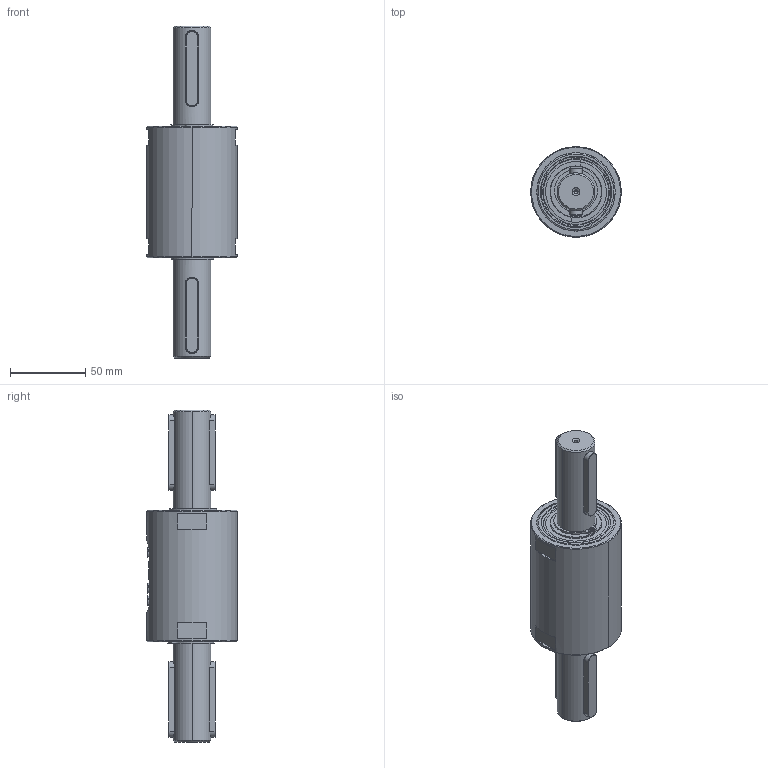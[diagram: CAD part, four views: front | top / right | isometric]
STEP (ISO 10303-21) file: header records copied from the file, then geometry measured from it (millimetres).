
FILE_DESCRIPTION (( 'STEP AP203' ), '1' );
FILE_NAME ('400006-ATS013_500Nm-25mm-Rund.STEP', '2017-02-20T10:23:01', ( '' ), ( '' ), 'SwSTEP 2.0', 'SolidWorks 2016', '' );
FILE_SCHEMA (( 'CONFIG_CONTROL_DESIGN' ));
Length unit declared in the file: millimetre
Products named in the file (14): 999999-ATM007-Tellerfeder_k_vorgespannt51,5x35,5_Standard; 400006-ATM002-Mutter-Binder-Stecker; ISO 1207 - M4 x 5 --- 5S_ISO 1207 - M4 x 5 --- 5S; 400006-ATS021-PCB12_mit_Stecker_Welle 25mm; 400006-ATE009-Binder-712-0416-90-05; DIN 988-42x52x1_DIN 988-42x52x1; 400006-ATM035_Rohrgehäuse_60mm; 400006-ATM032_Welle-25mm-Rund; Circlip DIN 471 - 25 x 1.2_Circlip DIN 471 - 25 x 1.2; ISO 1207 - M4 x 4 --- 4S_ISO 1207 - M4 x 4 --- 4S; 400006-ATS013_500Nm-25mm-Rund; 999999-ATN173_Rillenkugellager_6205-2Z_Standard; 400006-ATM031_Passscheibe_35x52x1; Parallel key A8 x 7 x 50 DIN 6885_Parallel key A8 x 7 x 50 DIN 6885
Assembly tree (19 placements, depth 3):
  400006-ATS013_500Nm-25mm-Rund
    400006-ATM032_Welle-25mm-Rund
    400006-ATS021-PCB12_mit_Stecker_Welle 25mm
      400006-ATE009-Binder-712-0416-90-05
    400006-ATM035_Rohrgehäuse_60mm
    400006-ATM031_Passscheibe_35x52x1
    DIN 988-42x52x1_DIN 988-42x52x1
    999999-ATM007-Tellerfeder_k_vorgespannt51,5x35,5_Standard
    ISO 1207 - M4 x 5 --- 5S_ISO 1207 - M4 x 5 --- 5S  x2
    ISO 1207 - M4 x 4 --- 4S_ISO 1207 - M4 x 4 --- 4S
    Circlip DIN 471 - 25 x 1.2_Circlip DIN 471 - 25 x 1.2  x2
    999999-ATN173_Rillenkugellager_6205-2Z_Standard  x2
    Parallel key A8 x 7 x 50 DIN 6885_Parallel key A8 x 7 x 50 DIN 6885  x4
    400006-ATM002-Mutter-Binder-Stecker
Bounding box: 60 x 60 x 220 mm (x, y, z)
Volume: 215828.8 mm3; surface area: 96710.9 mm2
Topology: 42 solids, 42 shells, 814 faces, 1945 edges, 1211 vertices
Faces by surface type: cylinder 288, plane 202, cone 180, torus 90, sphere 36, bspline 18
Entity records: 24065 total; most frequent: CARTESIAN_POINT 8421, DIRECTION 3107, ORIENTED_EDGE 2798, EDGE_CURVE 1399, AXIS2_PLACEMENT_3D 1297, VERTEX_POINT 885, CIRCLE 685, EDGE_LOOP 684
